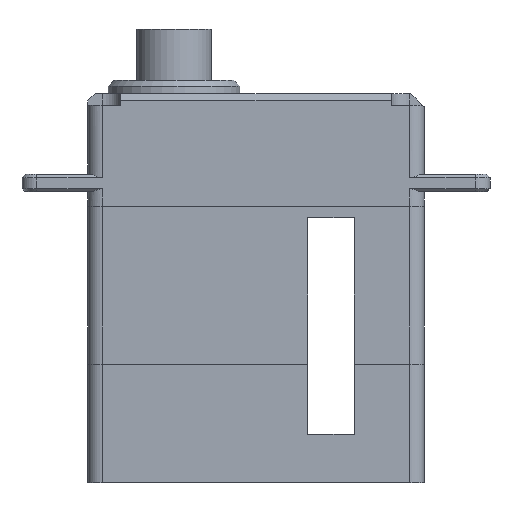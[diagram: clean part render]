
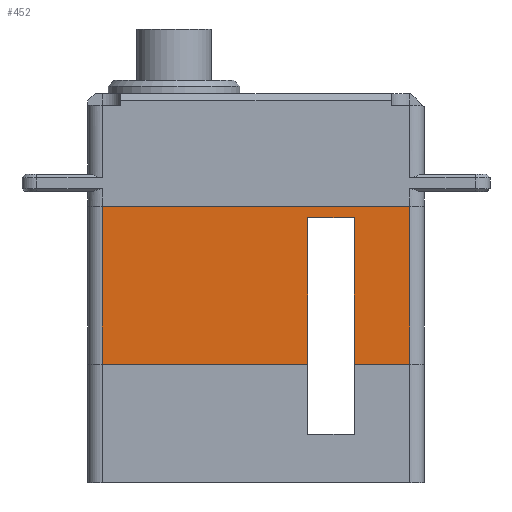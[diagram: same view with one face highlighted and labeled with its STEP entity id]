
A CAD part, front view. The second image highlights one B-rep face of the part: STEP entity #452.
In plain terms, the highlighted planar face has unit normal (0, -1, 0).
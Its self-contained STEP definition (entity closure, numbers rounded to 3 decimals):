
#452=ADVANCED_FACE('',(#931),#768,.T.);
#768=PLANE('',#6130);
#931=FACE_OUTER_BOUND('',#1253,.T.);
#1253=EDGE_LOOP('',(#2856,#2857,#2858,#2859,#2860,#2861,#2862,#2863));
#1621=LINE('',#8571,#2097);
#1663=LINE('',#8768,#2139);
#1681=LINE('',#8894,#2157);
#1686=LINE('',#8904,#2162);
#1695=LINE('',#8953,#2171);
#1696=LINE('',#8965,#2172);
#1702=LINE('',#8979,#2178);
#1705=LINE('',#8985,#2181);
#2097=VECTOR('',#6740,1.);
#2139=VECTOR('',#6858,1.);
#2157=VECTOR('',#6986,1.);
#2162=VECTOR('',#6995,1.);
#2171=VECTOR('',#7036,1.);
#2172=VECTOR('',#7049,1.);
#2178=VECTOR('',#7069,1.);
#2181=VECTOR('',#7078,1.);
#2856=ORIENTED_EDGE('',*,*,#4994,.F.);
#2857=ORIENTED_EDGE('',*,*,#4922,.F.);
#2858=ORIENTED_EDGE('',*,*,#5024,.T.);
#2859=ORIENTED_EDGE('',*,*,#5018,.T.);
#2860=ORIENTED_EDGE('',*,*,#5036,.F.);
#2861=ORIENTED_EDGE('',*,*,#4846,.F.);
#2862=ORIENTED_EDGE('',*,*,#4989,.T.);
#2863=ORIENTED_EDGE('',*,*,#5033,.T.);
#4277=VERTEX_POINT('',#8570);
#4278=VERTEX_POINT('',#8572);
#4346=VERTEX_POINT('',#8767);
#4347=VERTEX_POINT('',#8769);
#4399=VERTEX_POINT('',#8893);
#4403=VERTEX_POINT('',#8905);
#4426=VERTEX_POINT('',#8952);
#4427=VERTEX_POINT('',#8954);
#4846=EDGE_CURVE('',#4277,#4278,#1621,.T.);
#4922=EDGE_CURVE('',#4346,#4347,#1663,.T.);
#4989=EDGE_CURVE('',#4277,#4399,#1681,.T.);
#4994=EDGE_CURVE('',#4347,#4403,#1686,.T.);
#5018=EDGE_CURVE('',#4427,#4426,#1695,.T.);
#5024=EDGE_CURVE('',#4346,#4427,#1696,.T.);
#5033=EDGE_CURVE('',#4399,#4403,#1702,.T.);
#5036=EDGE_CURVE('',#4278,#4426,#1705,.T.);
#6130=AXIS2_PLACEMENT_3D('',#8987,#7081,#7082);
#6740=DIRECTION('',(-1.,0.,0.));
#6858=DIRECTION('',(-1.,0.,0.));
#6986=DIRECTION('',(0.,0.,1.));
#6995=DIRECTION('',(0.,0.,1.));
#7036=DIRECTION('',(-1.,0.,0.));
#7049=DIRECTION('',(0.,0.,1.));
#7069=DIRECTION('',(1.,0.,0.));
#7078=DIRECTION('',(0.,0.,1.));
#7081=DIRECTION('',(0.,-1.,0.));
#7082=DIRECTION('',(1.,0.,0.));
#8570=CARTESIAN_POINT('',(3.525,-6.,-10.8));
#8571=CARTESIAN_POINT('',(3.525,-6.,-10.8));
#8572=CARTESIAN_POINT('',(-10.5,-6.,-10.8));
#8767=CARTESIAN_POINT('',(10.5,-6.,-10.8));
#8768=CARTESIAN_POINT('',(10.5,-6.,-10.8));
#8769=CARTESIAN_POINT('',(6.725,-6.,-10.8));
#8893=CARTESIAN_POINT('',(3.525,-6.,-0.785));
#8894=CARTESIAN_POINT('',(3.525,-6.,-10.8));
#8904=CARTESIAN_POINT('',(6.725,-6.,0.));
#8905=CARTESIAN_POINT('',(6.725,-6.,-0.785));
#8952=CARTESIAN_POINT('',(-10.5,-6.,0.));
#8953=CARTESIAN_POINT('',(10.5,-6.,0.));
#8954=CARTESIAN_POINT('',(10.5,-6.,0.));
#8965=CARTESIAN_POINT('',(10.5,-6.,-10.8));
#8979=CARTESIAN_POINT('',(0.065,-6.,-0.785));
#8985=CARTESIAN_POINT('',(-10.5,-6.,-10.8));
#8987=CARTESIAN_POINT('',(11.5,-6.,0.));
